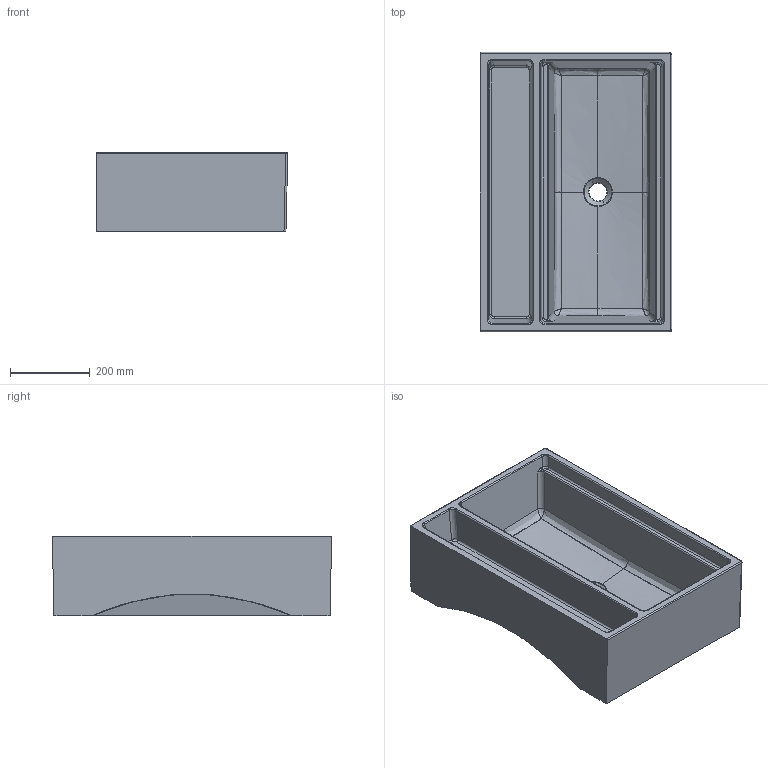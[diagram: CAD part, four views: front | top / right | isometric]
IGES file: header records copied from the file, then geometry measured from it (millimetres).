
Start section: START RECORD GO HERE.
Global section: file name: 7504_3D-IGS.igs; native system: DASSAULT SYSTEMES CATIA V5 R19 - www.3ds.com; preprocessor: CATIA Version 5 Release 19 SP 5 ; author: Luca; organization: DESKTOP-V7SON24; date: 20220503.084204; units: millimetre
Bounding box: 479.93 x 699.88 x 200 mm (x, y, z)
Surface area: 1646070.7 mm2 (no closed solid volume)
Topology: 0 solids, 0 shells, 160 faces, 772 edges, 760 vertices
Faces by surface type: bspline 81, revolution 44, plane 34, extrusion 1
